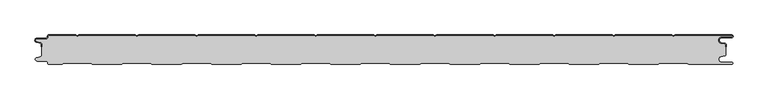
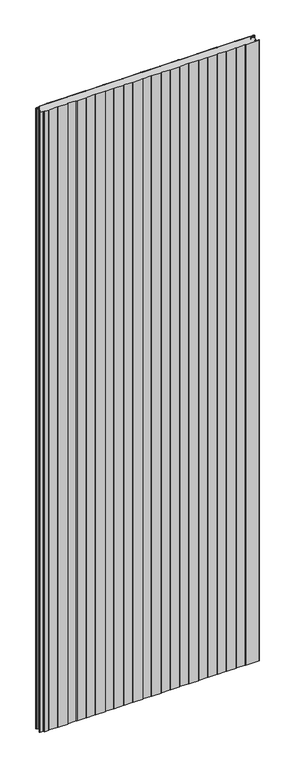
"""IFC4 building model written with IfcOpenShell, lengths in millimetres: plate geometry, PM1_Curtain-Panel_Perfil-Estándar : ACH_PM1_Panel-Acústico-Sectorización_50M."""

from ifc_helpers import new_model, si_unit, point, frame, frame_2d, origin, origin_with_axes, place, context, project, spatial, polyline, circle_curve, trimmed, segment, composite_curve, outline, extrude, source, transform, mapped, element, save
from ifc_brep_helpers import plane_surface, cylinder_surface, revolved_surface, advanced_brep


def plate_5101608a(model_context):
    return source(origin(), model_context, "Body", "SolidModel", [
        advanced_brep(
        [(-575.0, -15.878557, 3500.0), (-575.0, -20.0, 3500.0), (-574.2, -20.0, 3500.0), (-574.2, -15.878557, 3500.0), (-576.370137, -13.1503208, 3500.0), (-582.529863, -11.728236, 3500.0), (-581.9, -6.2, 3500.0), (-566.4, -6.2, 3500.0), (-563.6, -3.4, 3500.0), (-563.6, -2.0, 3500.0), (-562.4, -0.8, 3500.0), (-517.3143588, -0.8, 3500.0), (-514.4, -2.482606, 3500.0), (-511.4856412, -0.8, 3500.0), (-417.3143588, -0.8, 3500.0), (-414.4, -2.482606, 3500.0), (-411.4856412, -0.8, 3500.0), (-317.3143588, -0.8, 3500.0), (-314.4, -2.482606, 3500.0), (-311.4856412, -0.8, 3500.0), (-217.3143588, -0.8, 3500.0), (-214.4, -2.482606, 3500.0), (-211.4856412, -0.8, 3500.0), (-117.3143588, -0.8, 3500.0), (-114.4, -2.482606, 3500.0), (-111.4856412, -0.8, 3500.0), (-17.3143588, -0.8, 3500.0), (-14.4, -2.482606, 3500.0), (-11.4856412, -0.8, 3500.0), (82.6856412, -0.8, 3500.0), (85.6, -2.482606, 3500.0), (88.5143588, -0.8, 3500.0), (182.6856412, -0.8, 3500.0), (185.6, -2.482606, 3500.0), (188.5143588, -0.8, 3500.0), (282.6856412, -0.8, 3500.0), (285.6, -2.482606, 3500.0), (288.5143588, -0.8, 3500.0), (382.6856412, -0.8, 3500.0), (385.6, -2.482606, 3500.0), (388.5143588, -0.8, 3500.0), (482.6856412, -0.8, 3500.0), (485.6, -2.482606, 3500.0), (488.5143588, -0.8, 3500.0), (583.1, -0.8, 3500.0), (583.1, -4.2, 3500.0), (566.1, -4.2, 3500.0), (565.2664884, -13.7270771, 3500.0), (571.7125669, -14.8636953, 3500.0), (573.2, -16.6363492, 3500.0), (573.2, -20.0, 3500.0), (574.0, -20.0, 3500.0), (574.0, -16.6363492, 3500.0), (571.8514855, -14.0758491, 3500.0), (565.405407, -12.939231, 3500.0), (566.1, -5.0, 3500.0), (583.1, -5.0, 3500.0), (585.6, -2.5, 3500.0), (583.1, 0.0, 3500.0), (488.2999995, 0.0, 3500.0), (485.6, -1.5588455, 3500.0), (482.9000005, 0.0, 3500.0), (388.2999995, 0.0, 3500.0), (385.6, -1.5588455, 3500.0), (382.9000005, 0.0, 3500.0), (288.2999995, 0.0, 3500.0), (285.6, -1.5588455, 3500.0), (282.9000005, 0.0, 3500.0), (188.2999995, 0.0, 3500.0), (185.6, -1.5588455, 3500.0), (182.9000005, 0.0, 3500.0), (88.2999995, 0.0, 3500.0), (85.6, -1.5588455, 3500.0), (82.9000005, 0.0, 3500.0), (-11.7000005, 0.0, 3500.0), (-14.4, -1.5588455, 3500.0), (-17.0999995, 0.0, 3500.0), (-111.7000005, 0.0, 3500.0), (-114.4, -1.5588455, 3500.0), (-117.0999995, 0.0, 3500.0), (-211.7000005, 0.0, 3500.0), (-214.4, -1.5588455, 3500.0), (-217.0999995, 0.0, 3500.0), (-311.7000005, 0.0, 3500.0), (-314.4, -1.5588455, 3500.0), (-317.0999995, 0.0, 3500.0), (-411.7000005, 0.0, 3500.0), (-414.4, -1.5588455, 3500.0), (-417.0999995, 0.0, 3500.0), (-511.7000005, 0.0, 3500.0), (-514.4, -1.5588455, 3500.0), (-517.0999995, 0.0, 3500.0), (-562.4, 0.0, 3500.0), (-564.4, -2.0, 3500.0), (-564.4, -3.4, 3500.0), (-566.4, -5.4, 3500.0), (-581.9, -5.4, 3500.0), (-582.7098239, -12.5077322, 3500.0), (-576.5500979, -13.929817, 3500.0), (-575.0, -15.878557, 0.0), (-576.5500978, -13.9298169, 0.0), (-582.7098239, -12.507732, 0.0), (-581.9, -5.4, 0.0), (-566.4, -5.4, 0.0), (-564.4, -3.4, 0.0), (-564.4, -2.0, 0.0), (-562.4, 0.0, 0.0), (-517.0999995, 0.0, 0.0), (-514.4, -1.5588455, 0.0), (-511.7000005, 0.0, 0.0), (-417.0999995, 0.0, 0.0), (-414.4, -1.5588455, 0.0), (-411.7000005, 0.0, 0.0), (-317.0999995, 0.0, 0.0), (-314.4, -1.5588455, 0.0), (-311.7000005, 0.0, 0.0), (-217.0999995, 0.0, 0.0), (-214.4, -1.5588455, 0.0), (-211.7000005, 0.0, 0.0), (-117.0999995, 0.0, 0.0), (-114.4, -1.5588455, 0.0), (-111.7000005, 0.0, 0.0), (-17.0999995, 0.0, 0.0), (-14.4, -1.5588455, 0.0), (-11.7000005, 0.0, 0.0), (82.9000005, 0.0, 0.0), (85.6, -1.5588455, 0.0), (88.2999995, 0.0, 0.0), (182.9000005, 0.0, 0.0), (185.6, -1.5588455, 0.0), (188.2999995, 0.0, 0.0), (282.9000005, 0.0, 0.0), (285.6, -1.5588455, 0.0), (288.2999995, 0.0, 0.0), (382.9000005, 0.0, 0.0), (385.6, -1.5588455, 0.0), (388.2999995, 0.0, 0.0), (482.9000005, 0.0, 0.0), (485.6, -1.5588455, 0.0), (488.2999995, 0.0, 0.0), (583.1, 0.0, 0.0), (585.6, -2.5, 0.0), (583.1, -5.0, 0.0), (566.1, -5.0, 0.0), (565.405407, -12.939231, 0.0), (571.8514855, -14.0758491, 0.0), (574.0, -16.6363492, 0.0), (574.0, -20.0, 0.0), (573.2, -20.0, 0.0), (573.2, -16.6363492, 0.0), (571.7125669, -14.8636953, 0.0), (565.2664884, -13.7270772, 0.0), (566.1, -4.2, 0.0), (583.1, -4.2, 0.0), (583.1, -0.8, 0.0), (488.5143588, -0.8, 0.0), (485.6, -2.482606, 0.0), (482.6856412, -0.8, 0.0), (388.5143588, -0.8, 0.0), (385.6, -2.482606, 0.0), (382.6856412, -0.8, 0.0), (288.5143588, -0.8, 0.0), (285.6, -2.482606, 0.0), (282.6856412, -0.8, 0.0), (188.5143588, -0.8, 0.0), (185.6, -2.482606, 0.0), (182.6856412, -0.8, 0.0), (88.5143588, -0.8, 0.0), (85.6, -2.482606, 0.0), (82.6856412, -0.8, 0.0), (-11.4856412, -0.8, 0.0), (-14.4, -2.482606, 0.0), (-17.3143588, -0.8, 0.0), (-111.4856412, -0.8, 0.0), (-114.4, -2.482606, 0.0), (-117.3143588, -0.8, 0.0), (-211.4856412, -0.8, 0.0), (-214.4, -2.482606, 0.0), (-217.3143588, -0.8, 0.0), (-311.4856412, -0.8, 0.0), (-314.4, -2.482606, 0.0), (-317.3143588, -0.8, 0.0), (-411.4856412, -0.8, 0.0), (-414.4, -2.482606, 0.0), (-417.3143588, -0.8, 0.0), (-511.4856412, -0.8, 0.0), (-514.4, -2.482606, 0.0), (-517.3143588, -0.8, 0.0), (-562.4, -0.8, 0.0), (-563.6, -2.0, 0.0), (-563.6, -3.4, 0.0), (-566.4, -6.2, 0.0), (-581.9, -6.2, 0.0), (-582.529863, -11.7282362, 0.0), (-576.370137, -13.150321, 0.0), (-574.2, -15.878557, 0.0), (-574.2, -20.0, 0.0), (-575.0, -20.0, 0.0)],
        [
            (0, 1),
            (1, 2),
            (2, 3),
            (3, 4, circle_curve(frame((-577.0, -15.878557, 3500.0), z_axis=(0.0, 0.0, 1.0), x_axis=(1.0, 0.0, 0.0)), 2.8)),
            (4, 5),
            (5, 6, circle_curve(frame((-581.9, -9.0, 3500.0), z_axis=(0.0, 0.0, -1.0), x_axis=(1.0, 0.0, 0.0)), 2.8)),
            (6, 7),
            (7, 8, circle_curve(frame((-566.4, -3.4, 3500.0), z_axis=(0.0, 0.0, 1.0), x_axis=(1.0, 0.0, 0.0)), 2.8)),
            (8, 9),
            (9, 10, circle_curve(frame((-562.4, -2.0, 3500.0), z_axis=(0.0, 0.0, -1.0), x_axis=(1.0, 0.0, 0.0)), 1.2)),
            (10, 11),
            (11, 12),
            (12, 13),
            (13, 14),
            (14, 15),
            (15, 16),
            (16, 17),
            (17, 18),
            (18, 19),
            (19, 20),
            (20, 21),
            (21, 22),
            (22, 23),
            (23, 24),
            (24, 25),
            (25, 26),
            (26, 27),
            (27, 28),
            (28, 29),
            (29, 30),
            (30, 31),
            (31, 32),
            (32, 33),
            (33, 34),
            (34, 35),
            (35, 36),
            (36, 37),
            (37, 38),
            (38, 39),
            (39, 40),
            (40, 41),
            (41, 42),
            (42, 43),
            (43, 44),
            (44, 45, circle_curve(frame((583.1, -2.5, 3500.0), z_axis=(0.0, 0.0, -1.0), x_axis=(1.0, 0.0, 0.0)), 1.7)),
            (45, 46),
            (46, 47, circle_curve(frame((566.1, -9.0, 3500.0), z_axis=(0.0, 0.0, 1.0), x_axis=(1.0, 0.0, 0.0)), 4.8)),
            (47, 48),
            (48, 49, circle_curve(frame((571.4, -16.6363492, 3500.0), z_axis=(0.0, 0.0, -1.0), x_axis=(1.0, 0.0, 0.0)), 1.8)),
            (49, 50),
            (50, 51),
            (51, 52),
            (52, 53, circle_curve(frame((571.4, -16.6363492, 3500.0), z_axis=(0.0, 0.0, 1.0), x_axis=(1.0, 0.0, 0.0)), 2.6)),
            (53, 54),
            (54, 55, circle_curve(frame((566.1, -9.0, 3500.0), z_axis=(0.0, 0.0, -1.0), x_axis=(1.0, 0.0, 0.0)), 4.0)),
            (55, 56),
            (56, 57, circle_curve(frame((583.1, -2.5, 3500.0), z_axis=(0.0, 0.0, 1.0), x_axis=(1.0, 0.0, 0.0)), 2.5)),
            (57, 58, circle_curve(frame((583.1, -2.5, 3500.0), z_axis=(0.0, 0.0, 1.0), x_axis=(1.0, 0.0, 0.0)), 2.5)),
            (58, 59),
            (59, 60),
            (60, 61),
            (61, 62),
            (62, 63),
            (63, 64),
            (64, 65),
            (65, 66),
            (66, 67),
            (67, 68),
            (68, 69),
            (69, 70),
            (70, 71),
            (71, 72),
            (72, 73),
            (73, 74),
            (74, 75),
            (75, 76),
            (76, 77),
            (77, 78),
            (78, 79),
            (79, 80),
            (80, 81),
            (81, 82),
            (82, 83),
            (83, 84),
            (84, 85),
            (85, 86),
            (86, 87),
            (87, 88),
            (88, 89),
            (89, 90),
            (90, 91),
            (91, 92),
            (92, 93, circle_curve(frame((-562.4, -2.0, 3500.0), z_axis=(0.0, 0.0, 1.0), x_axis=(1.0, 0.0, 0.0)), 2.0)),
            (93, 94),
            (94, 95, circle_curve(frame((-566.4, -3.4, 3500.0), z_axis=(0.0, 0.0, -1.0), x_axis=(1.0, 0.0, 0.0)), 2.0)),
            (95, 96),
            (96, 97, circle_curve(frame((-581.9, -9.0, 3500.0), z_axis=(0.0, 0.0, 1.0), x_axis=(1.0, 0.0, 0.0)), 3.6)),
            (97, 98),
            (98, 0, circle_curve(frame((-577.0, -15.878557, 3500.0), z_axis=(0.0, 0.0, -1.0), x_axis=(1.0, 0.0, 0.0)), 2.0)),
            (99, 100, circle_curve(frame((-577.0, -15.878557, 0.0), z_axis=(0.0, 0.0, 1.0), x_axis=(1.0, 0.0, 0.0)), 2.0)),
            (100, 101),
            (101, 102, circle_curve(frame((-581.9, -9.0, 0.0), z_axis=(0.0, 0.0, -1.0), x_axis=(1.0, 0.0, 0.0)), 3.6)),
            (102, 103),
            (103, 104, circle_curve(frame((-566.4, -3.4, 0.0), z_axis=(0.0, 0.0, 1.0), x_axis=(1.0, 0.0, 0.0)), 2.0)),
            (104, 105),
            (105, 106, circle_curve(frame((-562.4, -2.0, 0.0), z_axis=(0.0, 0.0, -1.0), x_axis=(1.0, 0.0, 0.0)), 2.0)),
            (106, 107),
            (107, 108),
            (108, 109),
            (109, 110),
            (110, 111),
            (111, 112),
            (112, 113),
            (113, 114),
            (114, 115),
            (115, 116),
            (116, 117),
            (117, 118),
            (118, 119),
            (119, 120),
            (120, 121),
            (121, 122),
            (122, 123),
            (123, 124),
            (124, 125),
            (125, 126),
            (126, 127),
            (127, 128),
            (128, 129),
            (129, 130),
            (130, 131),
            (131, 132),
            (132, 133),
            (133, 134),
            (134, 135),
            (135, 136),
            (136, 137),
            (137, 138),
            (138, 139),
            (139, 140),
            (140, 141, circle_curve(frame((583.1, -2.5, 0.0), z_axis=(0.0, 0.0, -1.0), x_axis=(1.0, 0.0, 0.0)), 2.5)),
            (141, 142, circle_curve(frame((583.1, -2.5, 0.0), z_axis=(0.0, 0.0, -1.0), x_axis=(1.0, 0.0, 0.0)), 2.5)),
            (142, 143),
            (143, 144, circle_curve(frame((566.1, -9.0, 0.0), z_axis=(0.0, 0.0, 1.0), x_axis=(1.0, 0.0, 0.0)), 4.0)),
            (144, 145),
            (145, 146, circle_curve(frame((571.4, -16.6363492, 0.0), z_axis=(0.0, 0.0, -1.0), x_axis=(1.0, 0.0, 0.0)), 2.6)),
            (146, 147),
            (147, 148),
            (148, 149),
            (149, 150, circle_curve(frame((571.4, -16.6363492, 0.0), z_axis=(0.0, 0.0, 1.0), x_axis=(1.0, 0.0, 0.0)), 1.8)),
            (150, 151),
            (151, 152, circle_curve(frame((566.1, -9.0, 0.0), z_axis=(0.0, 0.0, -1.0), x_axis=(1.0, 0.0, 0.0)), 4.8)),
            (152, 153),
            (153, 154, circle_curve(frame((583.1, -2.5, 0.0), z_axis=(0.0, 0.0, 1.0), x_axis=(1.0, 0.0, 0.0)), 1.7)),
            (154, 155),
            (155, 156),
            (156, 157),
            (157, 158),
            (158, 159),
            (159, 160),
            (160, 161),
            (161, 162),
            (162, 163),
            (163, 164),
            (164, 165),
            (165, 166),
            (166, 167),
            (167, 168),
            (168, 169),
            (169, 170),
            (170, 171),
            (171, 172),
            (172, 173),
            (173, 174),
            (174, 175),
            (175, 176),
            (176, 177),
            (177, 178),
            (178, 179),
            (179, 180),
            (180, 181),
            (181, 182),
            (182, 183),
            (183, 184),
            (184, 185),
            (185, 186),
            (186, 187),
            (187, 188),
            (188, 189, circle_curve(frame((-562.4, -2.0, 0.0), z_axis=(0.0, 0.0, 1.0), x_axis=(1.0, 0.0, 0.0)), 1.2)),
            (189, 190),
            (190, 191, circle_curve(frame((-566.4, -3.4, 0.0), z_axis=(0.0, 0.0, -1.0), x_axis=(1.0, 0.0, 0.0)), 2.8)),
            (191, 192),
            (192, 193, circle_curve(frame((-581.9, -9.0, 0.0), z_axis=(0.0, 0.0, 1.0), x_axis=(1.0, 0.0, 0.0)), 2.8)),
            (193, 194),
            (194, 195, circle_curve(frame((-577.0, -15.878557, 0.0), z_axis=(0.0, 0.0, -1.0), x_axis=(1.0, 0.0, 0.0)), 2.8)),
            (195, 196),
            (196, 197),
            (197, 99),
            (0, 99),
            (197, 1),
            (196, 2),
            (195, 3),
            (194, 4),
            (193, 5),
            (192, 6),
            (191, 7),
            (190, 8),
            (189, 9),
            (188, 10),
            (187, 11),
            (186, 12),
            (185, 13),
            (184, 14),
            (183, 15),
            (182, 16),
            (181, 17),
            (180, 18),
            (179, 19),
            (178, 20),
            (177, 21),
            (176, 22),
            (175, 23),
            (174, 24),
            (173, 25),
            (172, 26),
            (171, 27),
            (170, 28),
            (169, 29),
            (168, 30),
            (167, 31),
            (166, 32),
            (165, 33),
            (164, 34),
            (163, 35),
            (162, 36),
            (161, 37),
            (160, 38),
            (159, 39),
            (158, 40),
            (157, 41),
            (156, 42),
            (155, 43),
            (154, 44),
            (153, 45),
            (152, 46),
            (151, 47),
            (150, 48),
            (149, 49),
            (148, 50),
            (147, 51),
            (146, 52),
            (145, 53),
            (144, 54),
            (143, 55),
            (142, 56),
            (140, 58),
            (139, 59),
            (138, 60),
            (137, 61),
            (136, 62),
            (135, 63),
            (134, 64),
            (133, 65),
            (132, 66),
            (131, 67),
            (130, 68),
            (129, 69),
            (128, 70),
            (127, 71),
            (126, 72),
            (125, 73),
            (124, 74),
            (123, 75),
            (122, 76),
            (121, 77),
            (120, 78),
            (119, 79),
            (118, 80),
            (117, 81),
            (116, 82),
            (115, 83),
            (114, 84),
            (113, 85),
            (112, 86),
            (111, 87),
            (110, 88),
            (109, 89),
            (108, 90),
            (107, 91),
            (106, 92),
            (105, 93),
            (104, 94),
            (103, 95),
            (102, 96),
            (101, 97),
            (100, 98),
        ],
        [
            plane_surface(frame((-575.0, 0.0, 3500.0), z_axis=(0.0, 0.0, 1.0), x_axis=(0.0, 1.0, 0.0))),
            plane_surface(frame((-575.0, 0.0, 0.0), z_axis=(0.0, 0.0, -1.0), x_axis=(0.0, 1.0, 0.0))),
            plane_surface(frame((-575.0, -15.878557, 3500.0), z_axis=(-1.0, 0.0, 0.0), x_axis=(0.0, 0.0, -1.0))),
            plane_surface(frame((-575.0, -20.0, 3500.0), z_axis=(0.0, -1.0, 0.0), x_axis=(0.0, 0.0, -1.0))),
            plane_surface(frame((-574.2, -20.0, 3500.0), z_axis=(1.0, 0.0, 0.0), x_axis=(0.0, 0.0, -1.0))),
            cylinder_surface(frame((-577.0, -15.878557, 3500.0), z_axis=(0.0, 0.0, 1.0), x_axis=(1.0, 0.0, 0.0)), 2.8),
            plane_surface(frame((-576.370137, -13.150321, 3500.0), z_axis=(0.22495108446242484, 0.9743700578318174, 0.0), x_axis=(0.0, 0.0, -1.0))),
            revolved_surface(polyline([(-579.1, -9.0, 0.0), (-579.1, -9.0, 3500.0)]), (-581.9, -9.0, 3500.0), (0.0, 0.0, -1.0)),
            plane_surface(frame((-581.9, -6.2, 3500.0), z_axis=(0.0, -1.0, 0.0), x_axis=(0.0, 0.0, -1.0))),
            cylinder_surface(frame((-566.4, -3.4, 3500.0), z_axis=(0.0, 0.0, 1.0), x_axis=(1.0, 0.0, 0.0)), 2.8),
            plane_surface(frame((-563.6, -3.4, 3500.0), z_axis=(1.0, 0.0, 0.0), x_axis=(0.0, 0.0, -1.0))),
            revolved_surface(polyline([(-561.1999999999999, -2.0, 0.0), (-561.1999999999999, -2.0, 3500.0)]), (-562.4, -2.0, 3500.0), (0.0, 0.0, -1.0)),
            plane_surface(frame((-562.4, -0.8, 3500.0), z_axis=(0.0, -1.0, 0.0), x_axis=(0.0, 0.0, -1.0))),
            plane_surface(frame((-517.3143588, -0.8, 3500.0), z_axis=(-0.5000000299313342, -0.8660253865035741, 0.0), x_axis=(0.0, 0.0, -1.0))),
            plane_surface(frame((-514.4, -2.482606, 3500.0), z_axis=(0.5000000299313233, -0.8660253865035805, 0.0), x_axis=(0.0, 0.0, -1.0))),
            plane_surface(frame((-511.4856412, -0.8, 3500.0), z_axis=(0.0, -1.0, 0.0), x_axis=(0.0, 0.0, -1.0))),
            plane_surface(frame((-417.3143588, -0.8, 3500.0), z_axis=(-0.5000000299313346, -0.8660253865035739, 0.0), x_axis=(0.0, 0.0, -1.0))),
            plane_surface(frame((-414.4, -2.482606, 3500.0), z_axis=(0.5000000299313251, -0.8660253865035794, 0.0), x_axis=(0.0, 0.0, -1.0))),
            plane_surface(frame((-411.4856412, -0.8, 3500.0), z_axis=(0.0, -1.0, 0.0), x_axis=(0.0, 0.0, -1.0))),
            plane_surface(frame((-317.3143588, -0.8, 3500.0), z_axis=(-0.5000000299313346, -0.866025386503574, 0.0), x_axis=(0.0, 0.0, -1.0))),
            plane_surface(frame((-314.4, -2.482606, 3500.0), z_axis=(0.5000000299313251, -0.8660253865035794, 0.0), x_axis=(0.0, 0.0, -1.0))),
            plane_surface(frame((-311.4856412, -0.8, 3500.0), z_axis=(0.0, -1.0, 0.0), x_axis=(0.0, 0.0, -1.0))),
            plane_surface(frame((-217.3143588, -0.8, 3500.0), z_axis=(-0.5000000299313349, -0.8660253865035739, 0.0), x_axis=(0.0, 0.0, -1.0))),
            plane_surface(frame((-214.4, -2.482606, 3500.0), z_axis=(0.5000000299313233, -0.8660253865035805, 0.0), x_axis=(0.0, 0.0, -1.0))),
            plane_surface(frame((-211.4856412, -0.8, 3500.0), z_axis=(0.0, -1.0, 0.0), x_axis=(0.0, 0.0, -1.0))),
            plane_surface(frame((-117.3143588, -0.8, 3500.0), z_axis=(-0.5000000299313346, -0.866025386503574, 0.0), x_axis=(0.0, 0.0, -1.0))),
            plane_surface(frame((-114.4, -2.482606, 3500.0), z_axis=(0.5000000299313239, -0.8660253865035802, 0.0), x_axis=(0.0, 0.0, -1.0))),
            plane_surface(frame((-111.4856412, -0.8, 3500.0), z_axis=(0.0, -1.0, 0.0), x_axis=(0.0, 0.0, -1.0))),
            plane_surface(frame((-17.3143588, -0.8, 3500.0), z_axis=(-0.5000000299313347, -0.8660253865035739, 0.0), x_axis=(0.0, 0.0, -1.0))),
            plane_surface(frame((-14.4, -2.482606, 3500.0), z_axis=(0.5000000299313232, -0.8660253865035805, 0.0), x_axis=(0.0, 0.0, -1.0))),
            plane_surface(frame((-11.4856412, -0.8, 3500.0), z_axis=(0.0, -1.0, 0.0), x_axis=(0.0, 0.0, -1.0))),
            plane_surface(frame((82.6856412, -0.8, 3500.0), z_axis=(-0.5000000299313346, -0.866025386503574, 0.0), x_axis=(0.0, 0.0, -1.0))),
            plane_surface(frame((85.6, -2.482606, 3500.0), z_axis=(0.5000000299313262, -0.8660253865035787, 0.0), x_axis=(0.0, 0.0, -1.0))),
            plane_surface(frame((88.5143588, -0.8, 3500.0), z_axis=(0.0, -1.0, 0.0), x_axis=(0.0, 0.0, -1.0))),
            plane_surface(frame((182.6856412, -0.8, 3500.0), z_axis=(-0.5000000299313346, -0.8660253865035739, 0.0), x_axis=(0.0, 0.0, -1.0))),
            plane_surface(frame((185.6, -2.482606, 3500.0), z_axis=(0.5000000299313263, -0.8660253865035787, 0.0), x_axis=(0.0, 0.0, -1.0))),
            plane_surface(frame((188.5143588, -0.8, 3500.0), z_axis=(0.0, -1.0, 0.0), x_axis=(0.0, 0.0, -1.0))),
            plane_surface(frame((282.6856412, -0.8, 3500.0), z_axis=(-0.5000000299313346, -0.8660253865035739, 0.0), x_axis=(0.0, 0.0, -1.0))),
            plane_surface(frame((285.6, -2.482606, 3500.0), z_axis=(0.5000000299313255, -0.8660253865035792, 0.0), x_axis=(0.0, 0.0, -1.0))),
            plane_surface(frame((288.5143588, -0.8, 3500.0), z_axis=(0.0, -1.0, 0.0), x_axis=(0.0, 0.0, -1.0))),
            plane_surface(frame((382.6856412, -0.8, 3500.0), z_axis=(-0.5000000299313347, -0.8660253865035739, 0.0), x_axis=(0.0, 0.0, -1.0))),
            plane_surface(frame((385.6, -2.482606, 3500.0), z_axis=(0.5000000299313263, -0.8660253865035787, 0.0), x_axis=(0.0, 0.0, -1.0))),
            plane_surface(frame((388.5143588, -0.8, 3500.0), z_axis=(0.0, -1.0, 0.0), x_axis=(0.0, 0.0, -1.0))),
            plane_surface(frame((482.6856412, -0.8, 3500.0), z_axis=(-0.5000000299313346, -0.866025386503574, 0.0), x_axis=(0.0, 0.0, -1.0))),
            plane_surface(frame((485.6, -2.482606, 3500.0), z_axis=(0.5000000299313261, -0.8660253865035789, 0.0), x_axis=(0.0, 0.0, -1.0))),
            plane_surface(frame((535.6, -0.8, 3500.0), z_axis=(0.0, -1.0, 0.0), x_axis=(0.0, 0.0, -1.0))),
            revolved_surface(polyline([(584.8000000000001, -2.5, 0.0), (584.8000000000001, -2.5, 3500.0)]), (583.1, -2.5, 3500.0), (0.0, 0.0, -1.0)),
            plane_surface(frame((583.1, -4.2, 3500.0), z_axis=(0.0, 1.0, 0.0), x_axis=(0.0, 0.0, -1.0))),
            cylinder_surface(frame((566.1, -9.0, 3500.0), z_axis=(0.0, 0.0, 1.0), x_axis=(1.0, 0.0, 0.0)), 4.8),
            plane_surface(frame((565.2664884, -13.7270772, 3500.0), z_axis=(-0.17364825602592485, -0.9848077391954, 0.0), x_axis=(0.0, 0.0, -1.0))),
            revolved_surface(polyline([(573.1999999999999, -16.6363492, 0.0), (573.1999999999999, -16.6363492, 3500.0)]), (571.4, -16.6363492, 3500.0), (0.0, 0.0, -1.0)),
            plane_surface(frame((573.2, -16.6363492, 3500.0), z_axis=(-1.0, 0.0, 0.0), x_axis=(0.0, 0.0, -1.0))),
            plane_surface(frame((573.2, -20.0, 3500.0), z_axis=(0.0, -1.0, 0.0), x_axis=(0.0, 0.0, -1.0))),
            plane_surface(frame((574.0, -20.0, 3500.0), z_axis=(1.0, 0.0, 0.0), x_axis=(0.0, 0.0, -1.0))),
            cylinder_surface(frame((571.4, -16.6363492, 3500.0), z_axis=(0.0, 0.0, 1.0), x_axis=(1.0, 0.0, 0.0)), 2.6),
            plane_surface(frame((571.8514855, -14.0758491, 3500.0), z_axis=(0.1736482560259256, 0.9848077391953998, 0.0), x_axis=(0.0, 0.0, -1.0))),
            revolved_surface(polyline([(570.1, -9.0, 0.0), (570.1, -9.0, 3500.0)]), (566.1, -9.0, 3500.0), (0.0, 0.0, -1.0)),
            plane_surface(frame((566.1, -5.0, 3500.0), z_axis=(0.0, -1.0, 0.0), x_axis=(0.0, 0.0, -1.0))),
            cylinder_surface(frame((583.1, -2.5, 3500.0), z_axis=(0.0, 0.0, 1.0), x_axis=(1.0, 0.0, 0.0)), 2.5),
            plane_surface(frame((535.6, 0.0, 3500.0), z_axis=(0.0, 1.0, 0.0), x_axis=(0.0, 0.0, -1.0))),
            plane_surface(frame((488.2999995, 0.0, 3500.0), z_axis=(-0.5000000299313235, 0.8660253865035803, 0.0), x_axis=(0.0, 0.0, -1.0))),
            plane_surface(frame((485.6, -1.5588455, 3500.0), z_axis=(0.5000000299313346, 0.8660253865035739, 0.0), x_axis=(0.0, 0.0, -1.0))),
            plane_surface(frame((482.9000005, 0.0, 3500.0), z_axis=(0.0, 1.0, 0.0), x_axis=(0.0, 0.0, -1.0))),
            plane_surface(frame((388.2999995, 0.0, 3500.0), z_axis=(-0.5000000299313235, 0.8660253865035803, 0.0), x_axis=(0.0, 0.0, -1.0))),
            plane_surface(frame((385.6, -1.5588455, 3500.0), z_axis=(0.5000000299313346, 0.8660253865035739, 0.0), x_axis=(0.0, 0.0, -1.0))),
            plane_surface(frame((382.9000005, 0.0, 3500.0), z_axis=(0.0, 1.0, 0.0), x_axis=(0.0, 0.0, -1.0))),
            plane_surface(frame((288.2999995, 0.0, 3500.0), z_axis=(-0.5000000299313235, 0.8660253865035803, 0.0), x_axis=(0.0, 0.0, -1.0))),
            plane_surface(frame((285.6, -1.5588455, 3500.0), z_axis=(0.5000000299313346, 0.8660253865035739, 0.0), x_axis=(0.0, 0.0, -1.0))),
            plane_surface(frame((282.9000005, 0.0, 3500.0), z_axis=(0.0, 1.0, 0.0), x_axis=(0.0, 0.0, -1.0))),
            plane_surface(frame((188.2999995, 0.0, 3500.0), z_axis=(-0.5000000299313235, 0.8660253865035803, 0.0), x_axis=(0.0, 0.0, -1.0))),
            plane_surface(frame((185.6, -1.5588455, 3500.0), z_axis=(0.5000000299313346, 0.8660253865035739, 0.0), x_axis=(0.0, 0.0, -1.0))),
            plane_surface(frame((182.9000005, 0.0, 3500.0), z_axis=(0.0, 1.0, 0.0), x_axis=(0.0, 0.0, -1.0))),
            plane_surface(frame((88.2999995, 0.0, 3500.0), z_axis=(-0.5000000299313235, 0.8660253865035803, 0.0), x_axis=(0.0, 0.0, -1.0))),
            plane_surface(frame((85.6, -1.5588455, 3500.0), z_axis=(0.5000000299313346, 0.8660253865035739, 0.0), x_axis=(0.0, 0.0, -1.0))),
            plane_surface(frame((82.9000005, 0.0, 3500.0), z_axis=(0.0, 1.0, 0.0), x_axis=(0.0, 0.0, -1.0))),
            plane_surface(frame((-11.7000005, 0.0, 3500.0), z_axis=(-0.5000000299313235, 0.8660253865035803, 0.0), x_axis=(0.0, 0.0, -1.0))),
            plane_surface(frame((-14.4, -1.5588455, 3500.0), z_axis=(0.5000000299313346, 0.8660253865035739, 0.0), x_axis=(0.0, 0.0, -1.0))),
            plane_surface(frame((-17.0999995, 0.0, 3500.0), z_axis=(0.0, 1.0, 0.0), x_axis=(0.0, 0.0, -1.0))),
            plane_surface(frame((-111.7000005, 0.0, 3500.0), z_axis=(-0.5000000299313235, 0.8660253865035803, 0.0), x_axis=(0.0, 0.0, -1.0))),
            plane_surface(frame((-114.4, -1.5588455, 3500.0), z_axis=(0.5000000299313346, 0.8660253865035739, 0.0), x_axis=(0.0, 0.0, -1.0))),
            plane_surface(frame((-117.0999995, 0.0, 3500.0), z_axis=(0.0, 1.0, 0.0), x_axis=(0.0, 0.0, -1.0))),
            plane_surface(frame((-211.7000005, 0.0, 3500.0), z_axis=(-0.5000000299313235, 0.8660253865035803, 0.0), x_axis=(0.0, 0.0, -1.0))),
            plane_surface(frame((-214.4, -1.5588455, 3500.0), z_axis=(0.5000000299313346, 0.8660253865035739, 0.0), x_axis=(0.0, 0.0, -1.0))),
            plane_surface(frame((-217.0999995, 0.0, 3500.0), z_axis=(0.0, 1.0, 0.0), x_axis=(0.0, 0.0, -1.0))),
            plane_surface(frame((-311.7000005, 0.0, 3500.0), z_axis=(-0.5000000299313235, 0.8660253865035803, 0.0), x_axis=(0.0, 0.0, -1.0))),
            plane_surface(frame((-314.4, -1.5588455, 3500.0), z_axis=(0.5000000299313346, 0.8660253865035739, 0.0), x_axis=(0.0, 0.0, -1.0))),
            plane_surface(frame((-317.0999995, 0.0, 3500.0), z_axis=(0.0, 1.0, 0.0), x_axis=(0.0, 0.0, -1.0))),
            plane_surface(frame((-411.7000005, 0.0, 3500.0), z_axis=(-0.5000000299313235, 0.8660253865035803, 0.0), x_axis=(0.0, 0.0, -1.0))),
            plane_surface(frame((-414.4, -1.5588455, 3500.0), z_axis=(0.5000000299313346, 0.8660253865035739, 0.0), x_axis=(0.0, 0.0, -1.0))),
            plane_surface(frame((-417.0999995, 0.0, 3500.0), z_axis=(0.0, 1.0, 0.0), x_axis=(0.0, 0.0, -1.0))),
            plane_surface(frame((-511.7000005, 0.0, 3500.0), z_axis=(-0.5000000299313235, 0.8660253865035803, 0.0), x_axis=(0.0, 0.0, -1.0))),
            plane_surface(frame((-514.4, -1.5588455, 3500.0), z_axis=(0.5000000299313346, 0.8660253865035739, 0.0), x_axis=(0.0, 0.0, -1.0))),
            plane_surface(frame((-517.0999995, 0.0, 3500.0), z_axis=(0.0, 1.0, 0.0), x_axis=(0.0, 0.0, -1.0))),
            cylinder_surface(frame((-562.4, -2.0, 3500.0), z_axis=(0.0, 0.0, 1.0), x_axis=(1.0, 0.0, 0.0)), 2.0),
            plane_surface(frame((-564.4, -2.0, 3500.0), z_axis=(-1.0, 0.0, 0.0), x_axis=(0.0, 0.0, -1.0))),
            revolved_surface(polyline([(-564.4, -3.4, 0.0), (-564.4, -3.4, 3500.0)]), (-566.4, -3.4, 3500.0), (0.0, 0.0, -1.0)),
            plane_surface(frame((-566.4, -5.4, 3500.0), z_axis=(0.0, 1.0, 0.0), x_axis=(0.0, 0.0, -1.0))),
            cylinder_surface(frame((-581.9, -9.0, 3500.0), z_axis=(0.0, 0.0, 1.0), x_axis=(1.0, 0.0, 0.0)), 3.6),
            plane_surface(frame((-582.7098239, -12.507732, 3500.0), z_axis=(-0.22495108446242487, -0.9743700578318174, 0.0), x_axis=(0.0, 0.0, -1.0))),
            revolved_surface(polyline([(-575.0, -15.878557, 0.0), (-575.0, -15.878557, 3500.0)]), (-577.0, -15.878557, 3500.0), (0.0, 0.0, -1.0)),
        ],
        [
            (0, [[1, 2, 3, 4, 5, 6, 7, 8, 9, 10, 11, 12, 13, 14, 15, 16, 17, 18, 19, 20, 21, 22, 23, 24, 25, 26, 27, 28, 29, 30, 31, 32, 33, 34, 35, 36, 37, 38, 39, 40, 41, 42, 43, 44, 45, 46, 47, 48, 49, 50, 51, 52, 53, 54, 55, 56, 57, 58, 59, 60, 61, 62, 63, 64, 65, 66, 67, 68, 69, 70, 71, 72, 73, 74, 75, 76, 77, 78, 79, 80, 81, 82, 83, 84, 85, 86, 87, 88, 89, 90, 91, 92, 93, 94, 95, 96, 97, 98, 99]]),
            (1, [[100, 101, 102, 103, 104, 105, 106, 107, 108, 109, 110, 111, 112, 113, 114, 115, 116, 117, 118, 119, 120, 121, 122, 123, 124, 125, 126, 127, 128, 129, 130, 131, 132, 133, 134, 135, 136, 137, 138, 139, 140, 141, 142, 143, 144, 145, 146, 147, 148, 149, 150, 151, 152, 153, 154, 155, 156, 157, 158, 159, 160, 161, 162, 163, 164, 165, 166, 167, 168, 169, 170, 171, 172, 173, 174, 175, 176, 177, 178, 179, 180, 181, 182, 183, 184, 185, 186, 187, 188, 189, 190, 191, 192, 193, 194, 195, 196, 197, 198]]),
            (2, [[-1, 199, -198, 200]]),
            (3, [[-2, -200, -197, 201]]),
            (4, [[-3, -201, -196, 202]]),
            (5, [[-4, -202, -195, 203]]),
            (6, [[-5, -203, -194, 204]]),
            (7, [[-6, -204, -193, 205]]),
            (8, [[-7, -205, -192, 206]]),
            (9, [[-8, -206, -191, 207]]),
            (10, [[-9, -207, -190, 208]]),
            (11, [[-10, -208, -189, 209]]),
            (12, [[-11, -209, -188, 210]]),
            (13, [[-12, -210, -187, 211]]),
            (14, [[-13, -211, -186, 212]]),
            (15, [[-14, -212, -185, 213]]),
            (16, [[-15, -213, -184, 214]]),
            (17, [[-16, -214, -183, 215]]),
            (18, [[-17, -215, -182, 216]]),
            (19, [[-18, -216, -181, 217]]),
            (20, [[-19, -217, -180, 218]]),
            (21, [[-20, -218, -179, 219]]),
            (22, [[-21, -219, -178, 220]]),
            (23, [[-22, -220, -177, 221]]),
            (24, [[-23, -221, -176, 222]]),
            (25, [[-24, -222, -175, 223]]),
            (26, [[-25, -223, -174, 224]]),
            (27, [[-26, -224, -173, 225]]),
            (28, [[-27, -225, -172, 226]]),
            (29, [[-28, -226, -171, 227]]),
            (30, [[-29, -227, -170, 228]]),
            (31, [[-30, -228, -169, 229]]),
            (32, [[-31, -229, -168, 230]]),
            (33, [[-32, -230, -167, 231]]),
            (34, [[-33, -231, -166, 232]]),
            (35, [[-34, -232, -165, 233]]),
            (36, [[-35, -233, -164, 234]]),
            (37, [[-36, -234, -163, 235]]),
            (38, [[-37, -235, -162, 236]]),
            (39, [[-38, -236, -161, 237]]),
            (40, [[-39, -237, -160, 238]]),
            (41, [[-40, -238, -159, 239]]),
            (42, [[-41, -239, -158, 240]]),
            (43, [[-42, -240, -157, 241]]),
            (44, [[-43, -241, -156, 242]]),
            (45, [[-44, -242, -155, 243]]),
            (46, [[-45, -243, -154, 244]]),
            (47, [[-46, -244, -153, 245]]),
            (48, [[-47, -245, -152, 246]]),
            (49, [[-48, -246, -151, 247]]),
            (50, [[-49, -247, -150, 248]]),
            (51, [[-50, -248, -149, 249]]),
            (52, [[-51, -249, -148, 250]]),
            (53, [[-52, -250, -147, 251]]),
            (54, [[-53, -251, -146, 252]]),
            (55, [[-54, -252, -145, 253]]),
            (56, [[-55, -253, -144, 254]]),
            (57, [[-56, -254, -143, 255]]),
            (58, [[-255, -142, -141, 256, -58, -57]]),
            (59, [[-59, -256, -140, 257]]),
            (60, [[-60, -257, -139, 258]]),
            (61, [[-61, -258, -138, 259]]),
            (62, [[-62, -259, -137, 260]]),
            (63, [[-63, -260, -136, 261]]),
            (64, [[-64, -261, -135, 262]]),
            (65, [[-65, -262, -134, 263]]),
            (66, [[-66, -263, -133, 264]]),
            (67, [[-67, -264, -132, 265]]),
            (68, [[-68, -265, -131, 266]]),
            (69, [[-69, -266, -130, 267]]),
            (70, [[-70, -267, -129, 268]]),
            (71, [[-71, -268, -128, 269]]),
            (72, [[-72, -269, -127, 270]]),
            (73, [[-73, -270, -126, 271]]),
            (74, [[-74, -271, -125, 272]]),
            (75, [[-75, -272, -124, 273]]),
            (76, [[-76, -273, -123, 274]]),
            (77, [[-77, -274, -122, 275]]),
            (78, [[-78, -275, -121, 276]]),
            (79, [[-79, -276, -120, 277]]),
            (80, [[-80, -277, -119, 278]]),
            (81, [[-81, -278, -118, 279]]),
            (82, [[-82, -279, -117, 280]]),
            (83, [[-83, -280, -116, 281]]),
            (84, [[-84, -281, -115, 282]]),
            (85, [[-85, -282, -114, 283]]),
            (86, [[-86, -283, -113, 284]]),
            (87, [[-87, -284, -112, 285]]),
            (88, [[-88, -285, -111, 286]]),
            (89, [[-89, -286, -110, 287]]),
            (90, [[-90, -287, -109, 288]]),
            (91, [[-91, -288, -108, 289]]),
            (92, [[-92, -289, -107, 290]]),
            (93, [[-93, -290, -106, 291]]),
            (94, [[-94, -291, -105, 292]]),
            (95, [[-95, -292, -104, 293]]),
            (96, [[-96, -293, -103, 294]]),
            (97, [[-97, -294, -102, 295]]),
            (98, [[-98, -295, -101, 296]]),
            (99, [[-99, -296, -100, -199]]),
        ],
    ),
        extrude(outline(composite_curve([segment(polyline([(-574.2, -34.121443), (-574.2, -15.8785573)]), True, "CONTINUOUS"), segment(trimmed(circle_curve(frame_2d((-577.0, -15.8785573)), 2.8), [point((-574.2, -15.8785573))], [point((-576.370137, -13.1503212))], True, "CARTESIAN"), True, "CONTINUOUS"), segment(polyline([(-576.370137, -13.1503212), (-582.5298631, -11.7282362)]), True, "CONTINUOUS"), segment(trimmed(circle_curve(frame_2d((-581.9, -9.0)), 2.8), [point((-582.5298631, -11.7282362))], [point((-581.9, -6.2))], False, "CARTESIAN"), True, "CONTINUOUS"), segment(polyline([(-581.9, -6.2), (-566.4000001, -6.2)]), True, "CONTINUOUS"), segment(trimmed(circle_curve(frame_2d((-566.4000001, -3.4)), 2.8), [point((-566.4000001, -6.2))], [point((-563.6000001, -3.4))], True, "CARTESIAN"), True, "CONTINUOUS"), segment(polyline([(-563.6000001, -3.4), (-563.6000001, -2.0)]), True, "CONTINUOUS"), segment(trimmed(circle_curve(frame_2d((-562.4000001, -2.0)), 1.2), [point((-563.6000001, -2.0))], [point((-562.4000001, -0.8))], False, "CARTESIAN"), True, "CONTINUOUS"), segment(polyline([(-562.4000001, -0.8), (-517.3143589, -0.8), (-514.4000001, -2.482606), (-511.4856412, -0.8), (-417.3143589, -0.8), (-414.4000001, -2.482606), (-411.4856412, -0.8), (-317.3143589, -0.8), (-314.4000001, -2.482606), (-311.4856412, -0.8), (-217.3143589, -0.8), (-214.4000001, -2.482606), (-211.4856412, -0.8), (-117.3143589, -0.8), (-114.4000001, -2.482606), (-111.4856412, -0.8), (-17.3143589, -0.8), (-14.4000001, -2.482606), (-11.4856412, -0.8), (82.6856411, -0.8), (85.5999999, -2.482606), (88.5143588, -0.8), (182.6856411, -0.8), (185.5999999, -2.482606), (188.5143588, -0.8), (282.6856411, -0.8), (285.5999999, -2.482606), (288.5143588, -0.8), (382.6856411, -0.8), (385.5999999, -2.482606), (388.5143588, -0.8), (482.6856411, -0.8), (485.6, -2.482606), (488.5143588, -0.8), (583.1, -0.8)]), True, "CONTINUOUS"), segment(trimmed(circle_curve(frame_2d((583.1, -2.5)), 1.7), [point((583.1, -0.8))], [point((583.1, -4.2))], False, "CARTESIAN"), True, "CONTINUOUS"), segment(polyline([(583.1, -4.2), (566.1, -4.2)]), True, "CONTINUOUS"), segment(trimmed(circle_curve(frame_2d((566.1, -9.0)), 4.8), [point((566.1, -4.2))], [point((565.2664883, -13.7270771))], True, "CARTESIAN"), True, "CONTINUOUS"), segment(polyline([(565.2664883, -13.7270771), (571.7125668, -14.8636953)]), True, "CONTINUOUS"), segment(trimmed(circle_curve(frame_2d((571.4, -16.6363492)), 1.8), [point((571.7125668, -14.8636953))], [point((573.2, -16.6363492))], False, "CARTESIAN"), True, "CONTINUOUS"), segment(polyline([(573.2, -16.6363492), (573.2, -33.363652)]), True, "CONTINUOUS"), segment(trimmed(circle_curve(frame_2d((571.4, -33.363652)), 1.8), [point((573.2, -33.363652))], [point((571.7125666, -35.136306))], False, "CARTESIAN"), True, "CONTINUOUS"), segment(polyline([(571.7125666, -35.136306), (565.266489, -36.2729231)]), True, "CONTINUOUS"), segment(trimmed(circle_curve(frame_2d((566.1, -41.0000002)), 4.7999999), [point((565.266489, -36.2729231))], [point((566.1, -45.8000001))], True, "CARTESIAN"), True, "CONTINUOUS"), segment(polyline([(566.1, -45.8000001), (583.1, -45.8000001)]), True, "CONTINUOUS"), segment(trimmed(circle_curve(frame_2d((583.1, -47.5)), 1.7), [point((583.1, -45.8000001))], [point((583.1, -49.2))], False, "CARTESIAN"), True, "CONTINUOUS"), segment(polyline([(583.1, -49.2), (510.8105122, -49.2), (508.2124346, -47.7), (462.9837184, -47.7), (460.3856408, -49.2), (410.8105122, -49.2), (408.2124346, -47.7), (362.9837184, -47.7), (360.3856408, -49.2), (310.8105122, -49.2), (308.2124346, -47.7), (262.9837184, -47.7), (260.3856408, -49.2), (210.8105122, -49.2), (208.2124346, -47.7), (162.9837184, -47.7), (160.3856408, -49.2), (110.8105122, -49.2), (108.2124346, -47.7), (62.9837184, -47.7), (60.3856408, -49.2), (10.8105122, -49.2), (8.2124346, -47.7), (-37.0162816, -47.7), (-39.6143592, -49.2), (-89.1894878, -49.2), (-91.7875654, -47.7), (-137.0162816, -47.7), (-139.6143592, -49.2), (-189.1894878, -49.2), (-191.7875654, -47.7), (-237.0162816, -47.7), (-239.6143592, -49.2), (-289.1894878, -49.2), (-291.7875654, -47.7), (-337.0162816, -47.7), (-339.6143592, -49.2), (-389.1894878, -49.2), (-391.7875654, -47.7), (-437.0162816, -47.7), (-439.6143592, -49.2), (-489.1894878, -49.2), (-491.7875654, -47.7), (-537.0162816, -47.7), (-539.6143592, -49.2), (-562.4, -49.2)]), True, "CONTINUOUS"), segment(trimmed(circle_curve(frame_2d((-562.4, -48.0)), 1.2), [point((-562.4, -49.2))], [point((-563.6, -48.0))], False, "CARTESIAN"), True, "CONTINUOUS"), segment(polyline([(-563.6, -48.0), (-563.6, -46.5999998)]), True, "CONTINUOUS"), segment(trimmed(circle_curve(frame_2d((-566.4, -46.5999998)), 2.8), [point((-563.6, -46.5999998))], [point((-566.4, -43.7999998))], True, "CARTESIAN"), True, "CONTINUOUS"), segment(polyline([(-566.4, -43.7999998), (-581.9, -43.7999998)]), True, "CONTINUOUS"), segment(trimmed(circle_curve(frame_2d((-581.9, -41.0)), 2.7999998), [point((-581.9, -43.7999998))], [point((-582.529863, -38.271764))], False, "CARTESIAN"), True, "CONTINUOUS"), segment(polyline([(-582.529863, -38.271764), (-576.370137, -36.8496792)]), True, "CONTINUOUS"), segment(trimmed(circle_curve(frame_2d((-577.0, -34.121443)), 2.8), [point((-576.370137, -36.8496792))], [point((-574.2, -34.121443))], True, "CARTESIAN"), True, "CONTINUOUS")], self_intersect=False)), origin_with_axes(), (0.0, 0.0, 1.0), 3500.0),
    ])


if __name__ == "__main__":
    model = new_model("IFC4")
    model_context = context("Model", 3, world=origin())
    ifc_project = project(units=[si_unit("LENGTHUNIT", "METRE", prefix="MILLI")], contexts=[model_context])
    site = spatial("IfcSite", under=ifc_project)
    building = spatial("IfcBuilding", under=site)
    placement = place(None, origin())
    plate_shape = plate_5101608a(model_context)
    element("IfcPlate", 1, ObjectType="PM1_Curtain-Panel_Perfil-Estándar : ACH_PM1_Panel-Acústico-Sectorización_50M", at=placement, inside=building, context=model_context, shape_type="MappedRepresentation", body=[
        mapped(plate_shape, transform((0.0, 0.0, 0.0), x_axis=(1.0, 0.0, 0.0), y_axis=(0.0, 1.0, 0.0), z_axis=(0.0, 0.0, 1.0))),
    ])
    save(model, "model.ifc")
